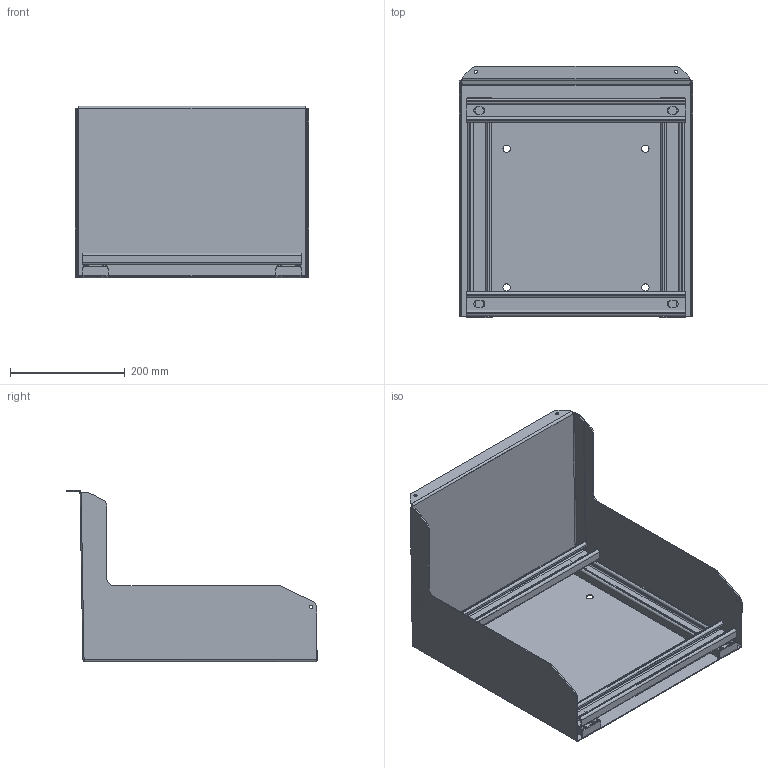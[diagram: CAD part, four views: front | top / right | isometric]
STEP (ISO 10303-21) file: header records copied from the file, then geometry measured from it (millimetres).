
FILE_DESCRIPTION (( 'STEP AP203' ), '1' );
FILE_NAME ('sw1mglwh.STEP', '2015-07-15T21:14:40', ( '' ), ( '' ), 'SwSTEP 2.0', 'SolidWorks 2010', '' );
FILE_SCHEMA (( 'CONFIG_CONTROL_DESIGN' ));
Length unit declared in the file: inch
Products named in the file (5): sw1mglwh; 89120310; 89120309; 89122177; 87780048
Assembly tree (7 placements, depth 3):
  sw1mglwh
    89122177  x2
    89120310
      89122177  x2
      89120309
    87780048
Bounding box: 406.4 x 436.98 x 298.4 mm (x, y, z)
Volume: 1041510.2 mm3; surface area: 1161363.6 mm2
Topology: 6 solids, 6 shells, 390 faces, 882 edges, 504 vertices
Faces by surface type: plane 264, cylinder 122, bspline 4
Entity records: 6467 total; most frequent: CARTESIAN_POINT 1223, DIRECTION 1000, ORIENTED_EDGE 936, EDGE_CURVE 468, AXIS2_PLACEMENT_3D 341, LINE 318, VECTOR 318, VERTEX_POINT 276
